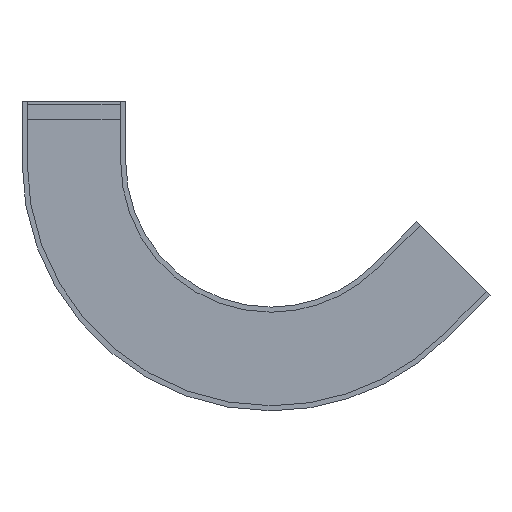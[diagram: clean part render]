
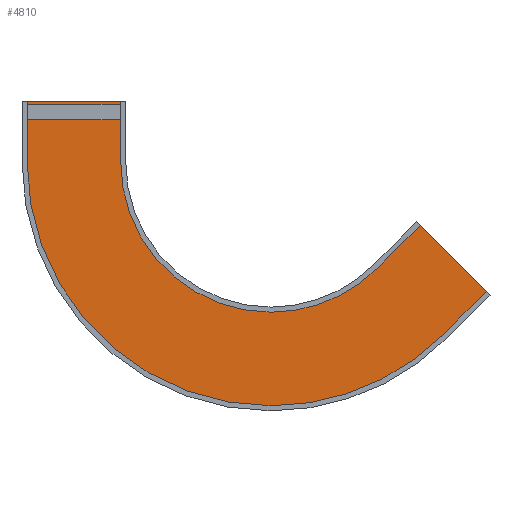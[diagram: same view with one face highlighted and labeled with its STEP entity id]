
A CAD part, front view. The second image highlights one B-rep face of the part: STEP entity #4810.
In plain terms, the highlighted planar face has unit normal (0, -1, 0).
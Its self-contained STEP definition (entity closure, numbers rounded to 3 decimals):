
#219 = FACE_OUTER_BOUND ( 'NONE', #6563, .T. ) ;
#441 = CARTESIAN_POINT ( 'NONE',  ( 168.5, -57.525, -200. ) ) ;
#477 = CARTESIAN_POINT ( 'NONE',  ( 1370.188, -57.525, -637.346 ) ) ;
#512 = CARTESIAN_POINT ( 'NONE',  ( 990.472, -57.525, -540.472 ) ) ;
#603 = CARTESIAN_POINT ( 'NONE',  ( -168.5, -57.525, -200. ) ) ;
#617 = CARTESIAN_POINT ( 'NONE',  ( 168.5, -57.525, 0. ) ) ;
#625 = CARTESIAN_POINT ( 'NONE',  ( -168.5, -57.525, 0. ) ) ;
#1004 = CARTESIAN_POINT ( 'NONE',  ( 650., -57.525, -200. ) ) ;
#1005 = DIRECTION ( 'NONE',  ( 0., -1., 0. ) ) ;
#1006 = DIRECTION ( 'NONE',  ( 0., 0., -1. ) ) ;
#1134 = CARTESIAN_POINT ( 'NONE',  ( 650., -57.525, -200. ) ) ;
#1135 = DIRECTION ( 'NONE',  ( 0., -1., 0. ) ) ;
#1136 = DIRECTION ( 'NONE',  ( 0., 0., -1. ) ) ;
#1144 = CARTESIAN_POINT ( 'NONE',  ( 650., -57.525, -200. ) ) ;
#1145 = DIRECTION ( 'NONE',  ( 0., -1., 0. ) ) ;
#1146 = DIRECTION ( 'NONE',  ( 0., 0., -1. ) ) ;
#1487 = CARTESIAN_POINT ( 'NONE',  ( 1228.767, -57.525, -778.767 ) ) ;
#1490 = CARTESIAN_POINT ( 'NONE',  ( 1131.893, -57.525, -399.051 ) ) ;
#1501 = CARTESIAN_POINT ( 'NONE',  ( 650., -57.525, -1018.5 ) ) ;
#2086 = CARTESIAN_POINT ( 'NONE',  ( 1228.767, -57.525, -778.767 ) ) ;
#2087 = DIRECTION ( 'NONE',  ( 0.707, 0., 0.707 ) ) ;
#2096 = CARTESIAN_POINT ( 'NONE',  ( 990.472, -57.525, -540.472 ) ) ;
#2097 = DIRECTION ( 'NONE',  ( 0.707, 0., 0.707 ) ) ;
#2237 = CARTESIAN_POINT ( 'NONE',  ( 168.5, -57.525, -200. ) ) ;
#2238 = DIRECTION ( 'NONE',  ( 0., 0., 1. ) ) ;
#2239 = CARTESIAN_POINT ( 'NONE',  ( 168.5, -57.525, 0. ) ) ;
#2240 = DIRECTION ( 'NONE',  ( 1., 0., 0. ) ) ;
#2241 = CARTESIAN_POINT ( 'NONE',  ( -168.5, -57.525, -200. ) ) ;
#2242 = DIRECTION ( 'NONE',  ( 0., 0., 1. ) ) ;
#2243 = CARTESIAN_POINT ( 'NONE',  ( 1131.893, -57.525, -399.051 ) ) ;
#2244 = DIRECTION ( 'NONE',  ( -0.707, 0., 0.707 ) ) ;
#2384 = CARTESIAN_POINT ( 'NONE',  ( 650., -57.525, -200. ) ) ;
#2385 = DIRECTION ( 'NONE',  ( 0., -1., 0. ) ) ;
#2386 = DIRECTION ( 'NONE',  ( 0., 0., -1. ) ) ;
#2397 = VERTEX_POINT ( 'NONE', #3672 ) ;
#2896 = AXIS2_PLACEMENT_3D ( 'NONE', #2384, #2385, #2386 ) ;
#2918 = AXIS2_PLACEMENT_3D ( 'NONE', #1004, #1005, #1006 ) ;
#2940 = AXIS2_PLACEMENT_3D ( 'NONE', #1134, #1135, #1136 ) ;
#2942 = AXIS2_PLACEMENT_3D ( 'NONE', #1144, #1145, #1146 ) ;
#3161 = AXIS2_PLACEMENT_3D ( 'NONE', #4658, #4659, #4660 ) ;
#3406 = VERTEX_POINT ( 'NONE', #1487 ) ;
#3409 = VERTEX_POINT ( 'NONE', #1490 ) ;
#3420 = VERTEX_POINT ( 'NONE', #1501 ) ;
#3443 = VERTEX_POINT ( 'NONE', #441 ) ;
#3479 = VERTEX_POINT ( 'NONE', #477 ) ;
#3514 = VERTEX_POINT ( 'NONE', #512 ) ;
#3605 = VERTEX_POINT ( 'NONE', #603 ) ;
#3619 = VERTEX_POINT ( 'NONE', #617 ) ;
#3627 = VERTEX_POINT ( 'NONE', #625 ) ;
#3672 = CARTESIAN_POINT ( 'NONE',  ( 650., -57.525, -681.5 ) ) ;
#3932 = EDGE_CURVE ( 'NONE', #3443, #3619, #7725, .T. ) ;
#3933 = EDGE_CURVE ( 'NONE', #3627, #3619, #7727, .T. ) ;
#3934 = EDGE_CURVE ( 'NONE', #3605, #3627, #7729, .T. ) ;
#3935 = EDGE_CURVE ( 'NONE', #3479, #3409, #7731, .T. ) ;
#4009 = EDGE_CURVE ( 'NONE', #2397, #3514, #5989, .T. ) ;
#4129 = EDGE_CURVE ( 'NONE', #3406, #3479, #6217, .T. ) ;
#4134 = EDGE_CURVE ( 'NONE', #3514, #3409, #6227, .T. ) ;
#4191 = EDGE_CURVE ( 'NONE', #3605, #3420, #6332, .T. ) ;
#4245 = EDGE_CURVE ( 'NONE', #3443, #2397, #6418, .T. ) ;
#4249 = EDGE_CURVE ( 'NONE', #3420, #3406, #6424, .T. ) ;
#4657 = PLANE ( 'NONE',  #3161 ) ;
#4658 = CARTESIAN_POINT ( 'NONE',  ( 168.5, -57.525, -200. ) ) ;
#4659 = DIRECTION ( 'NONE',  ( 0., -1., 0. ) ) ;
#4660 = DIRECTION ( 'NONE',  ( 1., 0., 0. ) ) ;
#4810 = ADVANCED_FACE ( 'NONE', ( #219 ), #4657, .T. ) ;
#5184 = ORIENTED_EDGE ( 'NONE', *, *, #3933, .F. ) ;
#5185 = ORIENTED_EDGE ( 'NONE', *, *, #3934, .F. ) ;
#5186 = ORIENTED_EDGE ( 'NONE', *, *, #4191, .T. ) ;
#5187 = ORIENTED_EDGE ( 'NONE', *, *, #4249, .T. ) ;
#5188 = ORIENTED_EDGE ( 'NONE', *, *, #4129, .T. ) ;
#5189 = ORIENTED_EDGE ( 'NONE', *, *, #3935, .T. ) ;
#5190 = ORIENTED_EDGE ( 'NONE', *, *, #4134, .F. ) ;
#5191 = ORIENTED_EDGE ( 'NONE', *, *, #4009, .F. ) ;
#5192 = ORIENTED_EDGE ( 'NONE', *, *, #4245, .F. ) ;
#5193 = ORIENTED_EDGE ( 'NONE', *, *, #3932, .T. ) ;
#5989 = CIRCLE ( 'NONE', #2896, 481.5 ) ;
#6217 = LINE ( 'NONE', #2086, #6218 ) ;
#6218 = VECTOR ( 'NONE', #2087, 1000. ) ;
#6227 = LINE ( 'NONE', #2096, #6228 ) ;
#6228 = VECTOR ( 'NONE', #2097, 1000. ) ;
#6332 = CIRCLE ( 'NONE', #2918, 818.5 ) ;
#6418 = CIRCLE ( 'NONE', #2940, 481.5 ) ;
#6424 = CIRCLE ( 'NONE', #2942, 818.5 ) ;
#6563 = EDGE_LOOP ( 'NONE', ( #5184, #5185, #5186, #5187, #5188, #5189, #5190, #5191, #5192, #5193 ) ) ;
#7725 = LINE ( 'NONE', #2237, #7726 ) ;
#7726 = VECTOR ( 'NONE', #2238, 1000. ) ;
#7727 = LINE ( 'NONE', #2239, #7728 ) ;
#7728 = VECTOR ( 'NONE', #2240, 1000. ) ;
#7729 = LINE ( 'NONE', #2241, #7730 ) ;
#7730 = VECTOR ( 'NONE', #2242, 1000. ) ;
#7731 = LINE ( 'NONE', #2243, #7732 ) ;
#7732 = VECTOR ( 'NONE', #2244, 1000. ) ;
